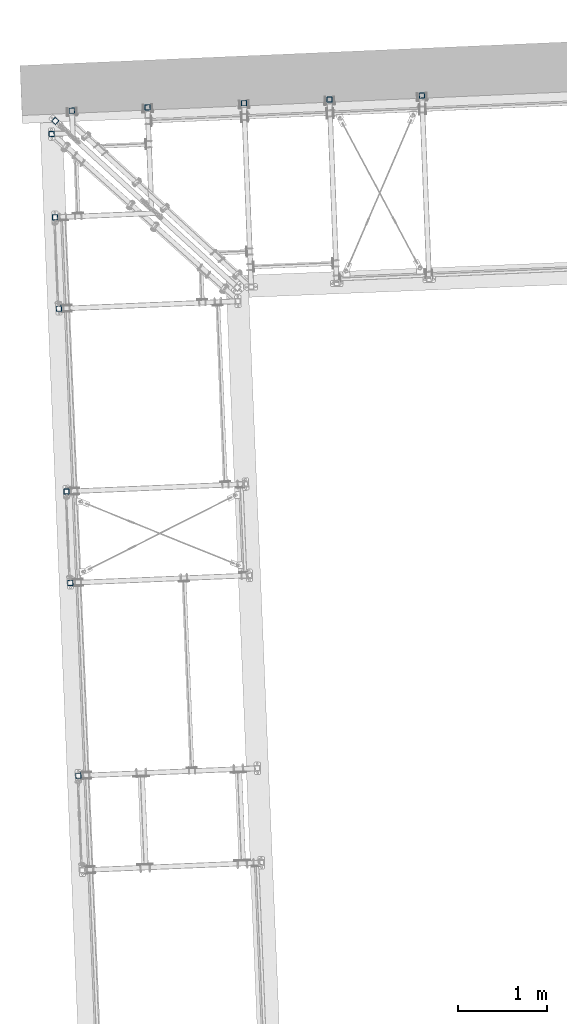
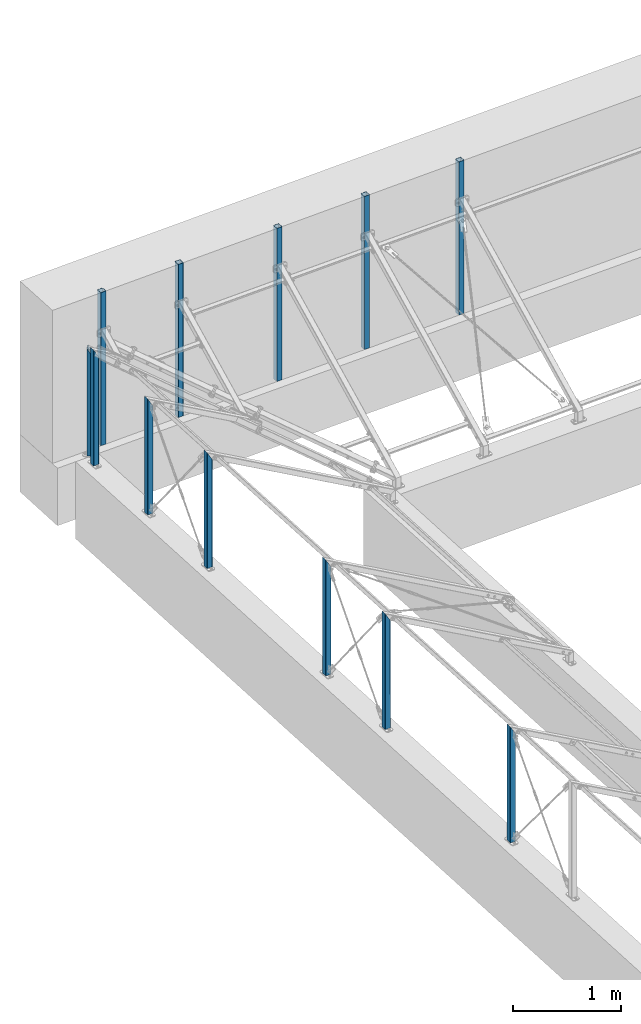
# One storey, part 4 of 288: 12 columns.
"""IFC2X3 building model written with IfcOpenShell, lengths in millimetres."""

from ifc_helpers import new_model, entity, si_unit, converted_unit, frame, origin, origin_with_axes, origin_2d, place, context, project, spatial, hollow_rectangle, extrude, clip, halfspace, material, element, save


model = new_model("IFC2X3")

# Units and contexts
model_context = context("Model", 3, precision=1e-09, world=origin_with_axes())
ifc_project = project(units=[si_unit("LENGTHUNIT", "METRE", prefix="MILLI"), si_unit("AREAUNIT", "SQUARE_METRE"), si_unit("VOLUMEUNIT", "CUBIC_METRE"), converted_unit("PLANEANGLEUNIT", "DEGREE", entity("IfcPlaneAngleMeasure", 0.01745329), si_unit("PLANEANGLEUNIT", "RADIAN"), dimensions=[0, 0, 0, 0, 0, 0, 0])], contexts=[model_context])

# Site, building, storey
site_placement = place(None, origin_with_axes())
site = spatial("IfcSite", under=ifc_project, at=site_placement, Name="Remont ?wietlik?w nad MC w NCPP w Opolu", CompositionType="ELEMENT")
building_placement = place(site_placement, origin_with_axes())
building = spatial("IfcBuilding", under=site, at=building_placement, Name="Konstrukcja 1", CompositionType="ELEMENT")
storey_placement = place(building_placement, origin_with_axes())
storey = spatial("IfcBuildingStorey", under=building, at=storey_placement, Name="Default Storey", CompositionType="ELEMENT", Elevation=0.0)

# Columns
ifc_material = material(Name="S235")
column_1_placement = place(None, frame((-763.043096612, 15295.559066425, -42.41640687), z_axis=(0.0, 0.0, 1.0), x_axis=(0.999131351, 0.041671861, 0.0)))
element("IfcColumn", 1, at=column_1_placement, inside=storey, material=ifc_material, Name="Horizontal_Beam", ObjectType="Horizontal_Beam", context=model_context, shape_type="Clipping", body=[
    clip(clip(extrude(hollow_rectangle(XDim=60.0, YDim=60.0, WallThickness=3.0, InnerFilletRadius=3.0, OuterFilletRadius=6.0, at=origin_2d()), origin(), (0.0, 0.0, 1.0), 1397.279184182), halfspace(frame((124.985867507, -15314.070015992, 52.427406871), z_axis=(0.0, 0.0, 1.0), x_axis=(0.999131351, -0.041671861, 0.0)), True)), halfspace(frame((581.179043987, -15314.069904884, 305.799810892), z_axis=(-0.86602528, -2.11e-07, -0.500000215), x_axis=(2.44e-07, -1.0, 0.0)), True)),
])
for number, where, z_axis, x_axis, name in (
    (2, (2353.775653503, 15682.684362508, 3.8e-08), (0.0, 0.0, 1.0), (0.039392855, -0.9992238, 0.0), "Horizontal_Beam"),
    (3, (3389.598648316, 15727.420504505, 3.8e-08), (0.0, 0.0, 1.0), (0.039392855, -0.9992238, 0.0), "Horizontal_Beam"),
    (4, (312.781131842, 15594.535884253, 3.8e-08), (0.0, 0.0, 1.0), (0.039392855, -0.9992238, 0.0), "Horizontal_Beam"),
    (5, (-536.422098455, 15557.746781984, 3.8e-08), (0.0, 0.0, 1.0), (0.039392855, -0.9992238, 0.0), "Horizontal_Beam"),
    (6, (1394.40961538, 15641.250318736, 3.8e-08), (0.0, 0.0, 1.0), (0.039392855, -0.9992238, 0.0), "Horizontal_Beam"),
):
    element("IfcColumn", number, at=place(None, frame(where, z_axis=z_axis, x_axis=x_axis)), inside=storey, material=ifc_material, Name=name, ObjectType="Horizontal_Beam", context=model_context, shape_type="SweptSolid", body=[
        extrude(hollow_rectangle(XDim=60.0, YDim=60.0, WallThickness=3.0, InnerFilletRadius=3.0, OuterFilletRadius=6.0, at=origin_2d()), origin(), (0.0, 0.0, 1.0), 1729.999999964),
    ])
column_2_placement = place(None, frame((-553.109817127, 10261.825313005, -42.426406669), z_axis=(0.0, 0.0, 1.0), x_axis=(0.999131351, 0.041671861, 0.0)))
element("IfcColumn", 7, at=column_2_placement, inside=storey, material=ifc_material, Name="Horizontal_Beam", ObjectType="Horizontal_Beam", context=model_context, shape_type="Clipping", body=[
    clip(clip(extrude(hollow_rectangle(XDim=60.0, YDim=60.0, WallThickness=3.0, InnerFilletRadius=3.0, OuterFilletRadius=6.0, at=origin_2d()), origin(), (0.0, 0.0, 1.0), 1397.279190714), halfspace(frame((581.177288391, -10275.960390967, 305.800616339), z_axis=(-0.866025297, -2.09e-07, -0.500000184), x_axis=(2.42e-07, -1.0, 0.0)), True)), halfspace(frame((125.000000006, -10275.960501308, 52.427406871), z_axis=(0.0, 0.0, 1.0), x_axis=(0.999131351, -0.041671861, 0.0)), True)),
])
column_3_placement = place(None, frame((-595.858279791, 11286.769439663, -42.426406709), z_axis=(0.0, 0.0, 1.0), x_axis=(0.999131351, 0.041671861, 0.0)))
element("IfcColumn", 8, at=column_3_placement, inside=storey, material=ifc_material, Name="Horizontal_Beam", ObjectType="Horizontal_Beam", context=model_context, shape_type="Clipping", body=[
    clip(clip(extrude(hollow_rectangle(XDim=60.0, YDim=60.0, WallThickness=3.0, InnerFilletRadius=3.0, OuterFilletRadius=6.0, at=origin_2d()), origin(), (0.0, 0.0, 1.0), 1397.279194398), halfspace(frame((581.17541248, -11301.795718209, 305.799512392), z_axis=(-0.866025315, 0.0, -0.500000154), x_axis=(0.0, -1.0, 0.0)), True)), halfspace(frame((125.000000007, -11301.795718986, 52.427406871), z_axis=(0.0, 0.0, 1.0), x_axis=(0.999131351, -0.041671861, 0.0)), True)),
])
column_4_placement = place(None, frame((-681.355205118, 13336.657692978, -42.42640679), z_axis=(0.0, 0.0, 1.0), x_axis=(0.999131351, 0.041671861, 0.0)))
element("IfcColumn", 9, at=column_4_placement, inside=storey, material=ifc_material, Name="Horizontal_Beam", ObjectType="Horizontal_Beam", context=model_context, shape_type="Clipping", body=[
    clip(clip(extrude(hollow_rectangle(XDim=60.0, YDim=60.0, WallThickness=3.0, InnerFilletRadius=3.0, OuterFilletRadius=6.0, at=origin_2d()), origin(), (0.0, 0.0, 1.0), 1397.279189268), halfspace(frame((581.177863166, -13353.466043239, 305.800948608), z_axis=(-0.866025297, -2.11e-07, -0.500000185), x_axis=(2.44e-07, -1.0, 0.0)), True)), halfspace(frame((125.000000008, -13353.466154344, 52.427406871), z_axis=(0.0, 0.0, 1.0), x_axis=(0.999131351, -0.041671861, 0.0)), True)),
])
column_5_placement = place(None, frame((-724.103667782, 14361.601819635, -42.426406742), z_axis=(0.0, 0.0, 1.0), x_axis=(0.999131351, 0.041671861, 0.0)))
element("IfcColumn", 10, at=column_5_placement, inside=storey, material=ifc_material, Name="Horizontal_Beam", ObjectType="Horizontal_Beam", context=model_context, shape_type="Clipping", body=[
    clip(clip(extrude(hollow_rectangle(XDim=60.0, YDim=60.0, WallThickness=3.0, InnerFilletRadius=3.0, OuterFilletRadius=6.0, at=origin_2d()), origin(), (0.0, 0.0, 1.0), 1397.279184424), halfspace(frame((125.000000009, -14379.301372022, 52.427406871), z_axis=(0.0, 0.0, 1.0), x_axis=(0.999131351, -0.041671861, 0.0)), True)), halfspace(frame((581.178075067, -14379.301260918, 305.801090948), z_axis=(-0.866025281, -2.11e-07, -0.500000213), x_axis=(2.44e-07, -1.0, 0.0)), True)),
])
column_6_placement = place(None, frame((-721.878588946, 15442.641160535, 1452.217164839), z_axis=(0.0, 0.0, 1.0), x_axis=(-0.675107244, -0.737719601, 0.0)))
element("IfcColumn", 11, at=column_6_placement, inside=storey, material=ifc_material, Name="-", ObjectType="-", context=model_context, shape_type="Clipping", body=[
    clip(clip(extrude(hollow_rectangle(XDim=60.0, YDim=60.0, WallThickness=3.0, InnerFilletRadius=3.0, OuterFilletRadius=6.0, at=origin_2d()), origin(), (0.0, 0.0, -1.0), 1524.643571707), halfspace(frame((10904.993609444, 10957.982893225, -1442.216164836), z_axis=(0.0, 0.0, 1.0), x_axis=(-0.675107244, 0.737719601, 0.0)), True)), halfspace(frame((10904.970052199, 3935.339276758, -6152.261542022), z_axis=(-2.788e-06, -0.831050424, -0.55619708), x_axis=(1.0, -3.354e-06, 0.0)), True)),
])
column_7_placement = place(None, frame((-462.91580156, 8099.318856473, -42.426406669), z_axis=(0.0, 0.0, -1.0), x_axis=(0.999131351, 0.041671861, 0.0)))
element("IfcColumn", 12, at=column_7_placement, inside=storey, material=ifc_material, Name="Horizontal_Beam", ObjectType="Horizontal_Beam", context=model_context, shape_type="Clipping", body=[
    clip(clip(extrude(hollow_rectangle(XDim=60.0, YDim=60.0, WallThickness=3.0, InnerFilletRadius=3.0, OuterFilletRadius=6.0, at=origin_2d()), origin(), (0.0, 0.0, -1.0), 1397.279189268), halfspace(frame((581.173942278, 8111.574063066, -305.798684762), z_axis=(-0.866025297, -2.11e-07, 0.500000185), x_axis=(-2.44e-07, 1.0, 0.0)), True)), halfspace(frame((125.000000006, 8111.573951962, -52.427406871), z_axis=(0.0, 0.0, -1.0), x_axis=(0.999131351, 0.041671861, 0.0)), True)),
])

save(model, "model.ifc")
